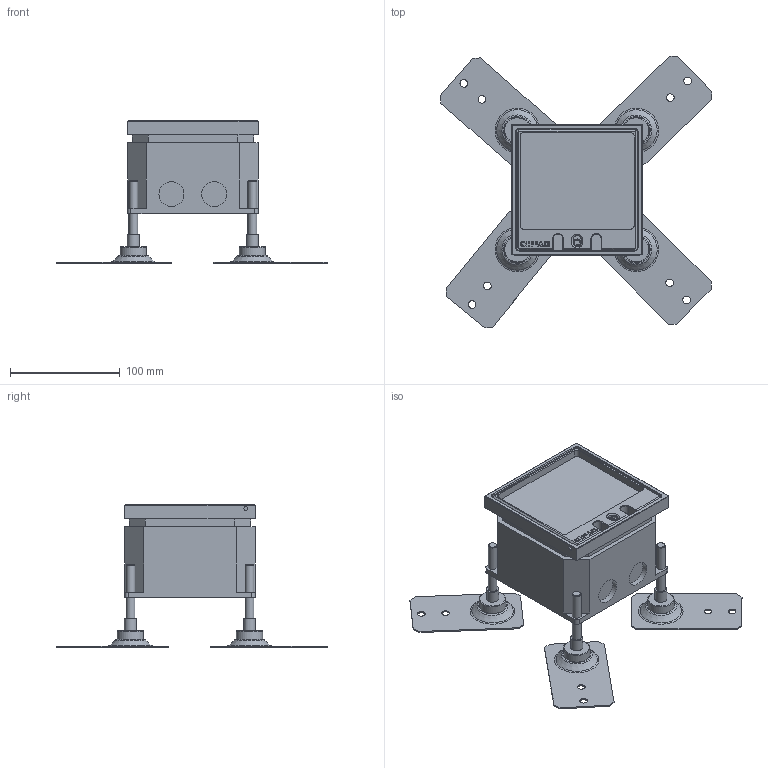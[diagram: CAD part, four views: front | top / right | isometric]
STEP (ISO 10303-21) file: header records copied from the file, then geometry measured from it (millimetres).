
FILE_DESCRIPTION(/* description */ (''),/* implementation_level */ '2;1');
FILE_NAME(/* name */ 'K:\Inventor\Dummy Zeichnungen Bodendosen\4000 Serie\FONTO.4308.CLOSE.stp',/* time_stamp */ '2019-05-13T10:34:33+02:00',/* author */ ('mayrhofer'),/* organization */ (''),/* preprocessor_version */ 'ST-DEVELOPER v17.2',/* originating_system */ 'Autodesk Inventor 2019',/* authorisation */ '');
FILE_SCHEMA (('AUTOMOTIVE_DESIGN { 1 0 10303 214 3 1 1 }'));
Length unit declared in the file: millimetre
Products named in the file (8): FONTO.4308; Kokille_42xx43xx; Nivellierfuß; Deckel_4308; Dichtung FONTO 4301; 1533631_3DINV; 309.LEG.45°.BS.MOSAIC.WEISS.2MOD.; BS 4183 - M5 x 6
Assembly tree (12 placements, depth 2):
  FONTO.4308
    Kokille_42xx43xx
    Nivellierfuß  x4
    Deckel_4308
    Dichtung FONTO 4301
    1533631_3DINV
    309.LEG.45°.BS.MOSAIC.WEISS.2MOD.  x2
    BS 4183 - M5 x 6  x2
Bounding box: 247.92 x 247.74 x 130.2 mm (x, y, z)
Volume: 695755.3 mm3; surface area: 243895.7 mm2
Topology: 12 solids, 12 shells, 601 faces, 1514 edges, 990 vertices
Faces by surface type: plane 352, cylinder 141, cone 52, torus 37, bspline 15, sphere 4
Full cylindrical faces by diameter (mm): 0.1 x2, 3.5 x14, 4.019 x2, 5 x6, 6 x2, 6.647 x4, 6.7 x1, 7 x8, 8 x4, 8.75 x2, 11 x4, 22.835 x2, 24 x4, 39 x2
Entity records: 13014 total; most frequent: CARTESIAN_POINT 2668, ORIENTED_EDGE 2072, DIRECTION 2060, EDGE_CURVE 1036, AXIS2_PLACEMENT_3D 692, VERTEX_POINT 679, LINE 676, VECTOR 676
